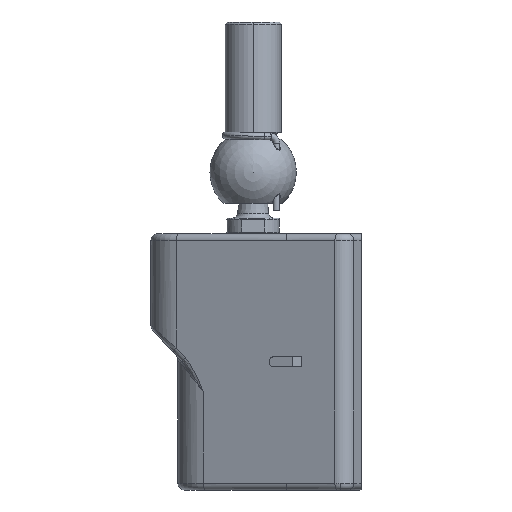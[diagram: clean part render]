
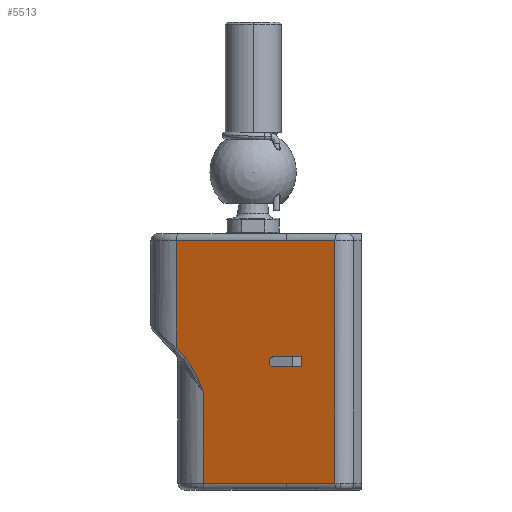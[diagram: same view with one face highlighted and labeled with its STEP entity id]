
A CAD part, left-side view. The second image highlights one B-rep face of the part: STEP entity #5513.
In plain terms, the highlighted planar face has unit normal (-0.927, 0.375, 0).
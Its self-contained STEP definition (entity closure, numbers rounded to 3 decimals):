
#23 = VERTEX_POINT ( 'NONE', #149 ) ;
#138 = VERTEX_POINT ( 'NONE', #1545 ) ;
#149 = CARTESIAN_POINT ( 'NONE',  ( -31.71, -2.252, -18.25 ) ) ;
#163 = CARTESIAN_POINT ( 'NONE',  ( -31.71, -2.252, -19.75 ) ) ;
#321 = ORIENTED_EDGE ( 'NONE', *, *, #6047, .T. ) ;
#389 = ORIENTED_EDGE ( 'NONE', *, *, #5362, .F. ) ;
#424 = ORIENTED_EDGE ( 'NONE', *, *, #5019, .F. ) ;
#440 = CARTESIAN_POINT ( 'NONE',  ( -25.811, 12.348, -23.399 ) ) ;
#461 = CARTESIAN_POINT ( 'NONE',  ( -29.837, 2.384, -19.05 ) ) ;
#480 = CIRCLE ( 'NONE', #683, 0.7 ) ;
#501 = CARTESIAN_POINT ( 'NONE',  ( -25.667, 12.705, -22.503 ) ) ;
#593 = VECTOR ( 'NONE', #4970, 1000. ) ;
#683 = AXIS2_PLACEMENT_3D ( 'NONE', #2591, #2096, #4556 ) ;
#709 = LINE ( 'NONE', #163, #593 ) ;
#754 = CARTESIAN_POINT ( 'NONE',  ( -33.695, -7.166, -76.525 ) ) ;
#761 = VECTOR ( 'NONE', #1712, 1000. ) ;
#770 = EDGE_CURVE ( 'NONE', #23, #2016, #3109, .T. ) ;
#789 = VECTOR ( 'NONE', #2931, 1000. ) ;
#853 = ORIENTED_EDGE ( 'NONE', *, *, #770, .F. ) ;
#903 = AXIS2_PLACEMENT_3D ( 'NONE', #4652, #4783, #3749 ) ;
#937 = ORIENTED_EDGE ( 'NONE', *, *, #3861, .F. ) ;
#940 = ORIENTED_EDGE ( 'NONE', *, *, #5481, .T. ) ;
#943 = CARTESIAN_POINT ( 'NONE',  ( -25.63, 12.797, -22.28 ) ) ;
#980 = VERTEX_POINT ( 'NONE', #4263 ) ;
#999 = CARTESIAN_POINT ( 'NONE',  ( -24.721, 15.046, -18.368 ) ) ;
#1001 = VECTOR ( 'NONE', #2163, 1000. ) ;
#1024 = ORIENTED_EDGE ( 'NONE', *, *, #5954, .T. ) ;
#1027 = CARTESIAN_POINT ( 'NONE',  ( -25.263, 13.705, -20.315 ) ) ;
#1028 = B_SPLINE_CURVE_WITH_KNOTS ( 'NONE', 3,
 ( #999, #1493, #1904, #3813, #1027, #4745, #3370, #943, #501, #4716, #5806, #440 ),
 .UNSPECIFIED., .F., .F.,
 ( 4, 2, 2, 2, 2, 4 ),
 ( 0., 0.001, 0.003, 0.004, 0.005, 0.006 ),
 .UNSPECIFIED. ) ;
#1030 = CARTESIAN_POINT ( 'NONE',  ( -24.195, 16.348, -38. ) ) ;
#1031 = CARTESIAN_POINT ( 'NONE',  ( -30.099, 1.735, -18.25 ) ) ;
#1234 = VERTEX_POINT ( 'NONE', #1746 ) ;
#1303 = VERTEX_POINT ( 'NONE', #2704 ) ;
#1307 = DIRECTION ( 'NONE',  ( 0., 0., -1. ) ) ;
#1369 = CARTESIAN_POINT ( 'NONE',  ( -30.099, 1.735, -19.75 ) ) ;
#1382 = LINE ( 'NONE', #3291, #5786 ) ;
#1493 = CARTESIAN_POINT ( 'NONE',  ( -24.851, 14.723, -18.715 ) ) ;
#1545 = CARTESIAN_POINT ( 'NONE',  ( -29.837, 2.384, -18.95 ) ) ;
#1590 = CARTESIAN_POINT ( 'NONE',  ( -24.195, 16.348, -1. ) ) ;
#1712 = DIRECTION ( 'NONE',  ( 0.375, 0.927, 0. ) ) ;
#1722 = LINE ( 'NONE', #2682, #2361 ) ;
#1746 = CARTESIAN_POINT ( 'NONE',  ( -33.695, -7.166, -1. ) ) ;
#1773 = LINE ( 'NONE', #1369, #4264 ) ;
#1816 = CARTESIAN_POINT ( 'NONE',  ( -30.8, 0., -1. ) ) ;
#1832 = EDGE_CURVE ( 'NONE', #2752, #1303, #5523, .T. ) ;
#1853 = CARTESIAN_POINT ( 'NONE',  ( -31.71, -2.252, -19.75 ) ) ;
#1864 = ORIENTED_EDGE ( 'NONE', *, *, #4001, .T. ) ;
#1893 = VERTEX_POINT ( 'NONE', #5181 ) ;
#1904 = CARTESIAN_POINT ( 'NONE',  ( -24.964, 14.444, -19.095 ) ) ;
#1995 = CARTESIAN_POINT ( 'NONE',  ( -30.8, 0., -38. ) ) ;
#2012 = ORIENTED_EDGE ( 'NONE', *, *, #2740, .T. ) ;
#2016 = VERTEX_POINT ( 'NONE', #1031 ) ;
#2024 = DIRECTION ( 'NONE',  ( -0.927, 0.375, 0. ) ) ;
#2032 = VERTEX_POINT ( 'NONE', #4831 ) ;
#2096 = DIRECTION ( 'NONE',  ( -0.927, 0.375, 0. ) ) ;
#2163 = DIRECTION ( 'NONE',  ( 0.375, 0.927, 0. ) ) ;
#2188 = ORIENTED_EDGE ( 'NONE', *, *, #4618, .T. ) ;
#2279 = ORIENTED_EDGE ( 'NONE', *, *, #4587, .T. ) ;
#2291 = EDGE_CURVE ( 'NONE', #3078, #2604, #1773, .T. ) ;
#2312 = DIRECTION ( 'NONE',  ( -0.375, -0.927, 0. ) ) ;
#2352 = CARTESIAN_POINT ( 'NONE',  ( -30.099, 1.735, -19.75 ) ) ;
#2361 = VECTOR ( 'NONE', #4559, 1000. ) ;
#2375 = ORIENTED_EDGE ( 'NONE', *, *, #1832, .T. ) ;
#2456 = VECTOR ( 'NONE', #5017, 1000. ) ;
#2591 = CARTESIAN_POINT ( 'NONE',  ( -30.099, 1.735, -19.05 ) ) ;
#2604 = VERTEX_POINT ( 'NONE', #1853 ) ;
#2638 = DIRECTION ( 'NONE',  ( -0.375, -0.927, 0. ) ) ;
#2675 = VECTOR ( 'NONE', #2638, 1000. ) ;
#2682 = CARTESIAN_POINT ( 'NONE',  ( -25.811, 12.348, -38. ) ) ;
#2704 = CARTESIAN_POINT ( 'NONE',  ( -30.8, 0., -37. ) ) ;
#2740 = EDGE_CURVE ( 'NONE', #3766, #4326, #4949, .T. ) ;
#2742 = DIRECTION ( 'NONE',  ( 0.375, 0.927, 0. ) ) ;
#2752 = VERTEX_POINT ( 'NONE', #5582 ) ;
#2768 = DIRECTION ( 'NONE',  ( -0.375, -0.927, 0. ) ) ;
#2779 = AXIS2_PLACEMENT_3D ( 'NONE', #1995, #2024, #5741 ) ;
#2791 = CIRCLE ( 'NONE', #903, 0.7 ) ;
#2930 = LINE ( 'NONE', #5323, #5663 ) ;
#2931 = DIRECTION ( 'NONE',  ( 0., 0., -1. ) ) ;
#3078 = VERTEX_POINT ( 'NONE', #2352 ) ;
#3109 = LINE ( 'NONE', #5604, #1001 ) ;
#3211 = CARTESIAN_POINT ( 'NONE',  ( -24.195, 16.348, -16.968 ) ) ;
#3212 = LINE ( 'NONE', #461, #4282 ) ;
#3291 = CARTESIAN_POINT ( 'NONE',  ( -30.8, 0., -37. ) ) ;
#3370 = CARTESIAN_POINT ( 'NONE',  ( -25.515, 13.08, -21.614 ) ) ;
#3428 = PLANE ( 'NONE',  #2779 ) ;
#3456 = FACE_OUTER_BOUND ( 'NONE', #5616, .T. ) ;
#3595 = LINE ( 'NONE', #754, #2456 ) ;
#3728 = EDGE_CURVE ( 'NONE', #980, #2752, #1722, .T. ) ;
#3749 = DIRECTION ( 'NONE',  ( -0.375, -0.927, 0. ) ) ;
#3766 = VERTEX_POINT ( 'NONE', #4249 ) ;
#3789 = VECTOR ( 'NONE', #2742, 1000. ) ;
#3813 = CARTESIAN_POINT ( 'NONE',  ( -25.17, 13.935, -19.895 ) ) ;
#3861 = EDGE_CURVE ( 'NONE', #2032, #3078, #480, .T. ) ;
#4001 = EDGE_CURVE ( 'NONE', #1893, #1234, #3595, .T. ) ;
#4221 = LINE ( 'NONE', #1816, #3789 ) ;
#4249 = CARTESIAN_POINT ( 'NONE',  ( -30.8, 0., -1. ) ) ;
#4263 = CARTESIAN_POINT ( 'NONE',  ( -25.811, 12.348, -23.399 ) ) ;
#4264 = VECTOR ( 'NONE', #2768, 1000. ) ;
#4282 = VECTOR ( 'NONE', #1307, 1000. ) ;
#4312 = FACE_BOUND ( 'NONE', #5531, .T. ) ;
#4326 = VERTEX_POINT ( 'NONE', #1590 ) ;
#4366 = LINE ( 'NONE', #1030, #789 ) ;
#4556 = DIRECTION ( 'NONE',  ( 0.375, 0.927, 0. ) ) ;
#4559 = DIRECTION ( 'NONE',  ( 0., 0., -1. ) ) ;
#4587 = EDGE_CURVE ( 'NONE', #6139, #980, #1028, .T. ) ;
#4618 = EDGE_CURVE ( 'NONE', #5700, #6139, #2930, .T. ) ;
#4652 = CARTESIAN_POINT ( 'NONE',  ( -30.099, 1.735, -18.95 ) ) ;
#4716 = CARTESIAN_POINT ( 'NONE',  ( -25.74, 12.524, -22.95 ) ) ;
#4745 = CARTESIAN_POINT ( 'NONE',  ( -25.436, 13.277, -21.176 ) ) ;
#4783 = DIRECTION ( 'NONE',  ( -0.927, 0.375, 0. ) ) ;
#4831 = CARTESIAN_POINT ( 'NONE',  ( -29.837, 2.384, -19.05 ) ) ;
#4949 = LINE ( 'NONE', #5988, #761 ) ;
#4970 = DIRECTION ( 'NONE',  ( 0., 0., 1. ) ) ;
#5017 = DIRECTION ( 'NONE',  ( 0., 0., 1. ) ) ;
#5019 = EDGE_CURVE ( 'NONE', #138, #2032, #3212, .T. ) ;
#5181 = CARTESIAN_POINT ( 'NONE',  ( -33.695, -7.166, -37. ) ) ;
#5264 = DIRECTION ( 'NONE',  ( -0.265, -0.657, -0.706 ) ) ;
#5273 = CARTESIAN_POINT ( 'NONE',  ( -24.721, 15.046, -18.368 ) ) ;
#5323 = CARTESIAN_POINT ( 'NONE',  ( -31.448, -1.603, -36.265 ) ) ;
#5362 = EDGE_CURVE ( 'NONE', #2604, #23, #709, .T. ) ;
#5384 = ORIENTED_EDGE ( 'NONE', *, *, #3728, .T. ) ;
#5481 = EDGE_CURVE ( 'NONE', #4326, #5700, #4366, .T. ) ;
#5513 = ADVANCED_FACE ( 'NONE', ( #4312, #3456 ), #3428, .T. ) ;
#5523 = LINE ( 'NONE', #5962, #2675 ) ;
#5531 = EDGE_LOOP ( 'NONE', ( #853, #389, #5949, #937, #424, #6065 ) ) ;
#5582 = CARTESIAN_POINT ( 'NONE',  ( -25.811, 12.348, -37. ) ) ;
#5604 = CARTESIAN_POINT ( 'NONE',  ( -30.099, 1.735, -18.25 ) ) ;
#5616 = EDGE_LOOP ( 'NONE', ( #1024, #2012, #940, #2188, #2279, #5384, #2375, #321, #1864 ) ) ;
#5663 = VECTOR ( 'NONE', #5264, 1000. ) ;
#5700 = VERTEX_POINT ( 'NONE', #3211 ) ;
#5741 = DIRECTION ( 'NONE',  ( -0.375, -0.927, 0. ) ) ;
#5786 = VECTOR ( 'NONE', #2312, 1000. ) ;
#5806 = CARTESIAN_POINT ( 'NONE',  ( -25.776, 12.435, -23.176 ) ) ;
#5949 = ORIENTED_EDGE ( 'NONE', *, *, #2291, .F. ) ;
#5954 = EDGE_CURVE ( 'NONE', #1234, #3766, #4221, .T. ) ;
#5962 = CARTESIAN_POINT ( 'NONE',  ( -30.8, 0., -37. ) ) ;
#5988 = CARTESIAN_POINT ( 'NONE',  ( -30.8, 0., -1. ) ) ;
#6025 = EDGE_CURVE ( 'NONE', #2016, #138, #2791, .T. ) ;
#6047 = EDGE_CURVE ( 'NONE', #1303, #1893, #1382, .T. ) ;
#6065 = ORIENTED_EDGE ( 'NONE', *, *, #6025, .F. ) ;
#6139 = VERTEX_POINT ( 'NONE', #5273 ) ;
